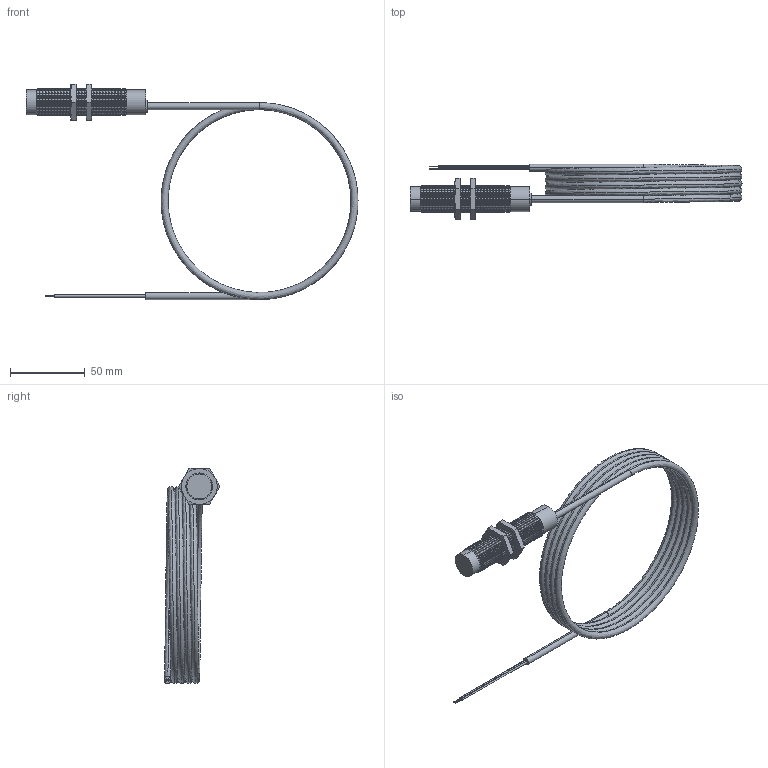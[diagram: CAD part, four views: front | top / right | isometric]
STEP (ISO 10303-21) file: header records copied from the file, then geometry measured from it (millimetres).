
FILE_DESCRIPTION (( 'STEP AP203' ), '1' );
FILE_NAME ('90-XXXX-026.STEP', '2015-10-28T13:19:08', ( 'Sam' ), ( 'Spade' ), 'SwSTEP 2.0', 'SolidWorks 2002296', '' );
FILE_SCHEMA (( 'CONFIG_CONTROL_DESIGN' ));
Length unit declared in the file: inch
Products named in the file (13): 90-XXXX-026; Imported263; Imported262; Imported252; Imported257; Imported256; Imported255; Imported254; Imported253; Imported261; Imported260; Imported259; Imported258
Assembly tree (12 placements, depth 2):
  90-XXXX-026
    Imported263
    Imported261
    Imported252
    Imported260
    Imported259
    Imported258
    Imported257
    Imported253
    Imported255
    Imported254
    Imported256
    Imported262
Bounding box: 222.09 x 37.45 x 143.87 mm (x, y, z)
Volume: 56398 mm3; surface area: 40104.5 mm2
Topology: 12 solids, 12 shells, 600 faces, 1194 edges, 641 vertices
Faces by surface type: cone 300, cylinder 230, plane 60, bspline 10
Entity records: 18277 total; most frequent: CARTESIAN_POINT 4326, DIRECTION 2948, ORIENTED_EDGE 2388, AXIS2_PLACEMENT_3D 1215, EDGE_CURVE 1194, VERTEX_POINT 641, EDGE_LOOP 627, CIRCLE 610
